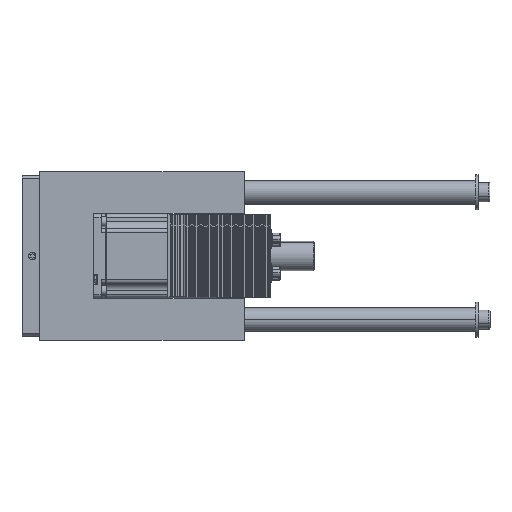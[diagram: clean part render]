
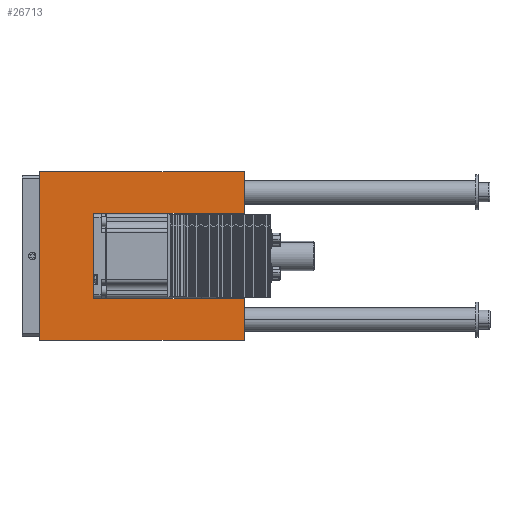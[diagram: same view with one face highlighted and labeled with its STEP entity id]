
A CAD part, top view. The second image highlights one B-rep face of the part: STEP entity #26713.
In plain terms, the highlighted planar face has unit normal (0, 0, 1).
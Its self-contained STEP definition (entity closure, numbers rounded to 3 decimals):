
#1046 = EDGE_CURVE ( 'NONE', #37613, #75086, #62044, .T. ) ;
#1833 = DIRECTION ( 'NONE',  ( 0., 1., 0. ) ) ;
#2249 = VECTOR ( 'NONE', #62707, 1000. ) ;
#2434 = CARTESIAN_POINT ( 'NONE',  ( 70., -29.25, 29. ) ) ;
#3877 = CARTESIAN_POINT ( 'NONE',  ( -33., 29.25, 29. ) ) ;
#6197 = LINE ( 'NONE', #66882, #19278 ) ;
#8767 = VERTEX_POINT ( 'NONE', #23526 ) ;
#9449 = DIRECTION ( 'NONE',  ( 0., 0., 1. ) ) ;
#9875 = VERTEX_POINT ( 'NONE', #18253 ) ;
#14488 = DIRECTION ( 'NONE',  ( -1., 0., 0. ) ) ;
#14720 = DIRECTION ( 'NONE',  ( 1., 0., 0. ) ) ;
#15173 = ORIENTED_EDGE ( 'NONE', *, *, #1046, .T. ) ;
#15754 = CARTESIAN_POINT ( 'NONE',  ( 70., 57.5, 29. ) ) ;
#18253 = CARTESIAN_POINT ( 'NONE',  ( 70., 29.25, 29. ) ) ;
#18449 = VECTOR ( 'NONE', #1833, 1000. ) ;
#19278 = VECTOR ( 'NONE', #52727, 1000. ) ;
#19537 = EDGE_CURVE ( 'NONE', #9875, #65474, #6197, .T. ) ;
#21985 = EDGE_CURVE ( 'NONE', #69166, #8767, #66503, .T. ) ;
#22185 = VERTEX_POINT ( 'NONE', #39486 ) ;
#22339 = EDGE_CURVE ( 'NONE', #22185, #75086, #28983, .T. ) ;
#22608 = VECTOR ( 'NONE', #22820, 1000. ) ;
#22820 = DIRECTION ( 'NONE',  ( 1., 0., 0. ) ) ;
#23526 = CARTESIAN_POINT ( 'NONE',  ( -70., -57.5, 29. ) ) ;
#24549 = CARTESIAN_POINT ( 'NONE',  ( 70., 29.25, 29. ) ) ;
#25179 = CARTESIAN_POINT ( 'NONE',  ( -70., 57.5, 29. ) ) ;
#25430 = VECTOR ( 'NONE', #52797, 1000. ) ;
#26713 = ADVANCED_FACE ( 'NONE', ( #68802 ), #36227, .T. ) ;
#28775 = LINE ( 'NONE', #35379, #48929 ) ;
#28789 = CARTESIAN_POINT ( 'NONE',  ( -70., 57.5, 29. ) ) ;
#28983 = LINE ( 'NONE', #43394, #22608 ) ;
#29236 = ORIENTED_EDGE ( 'NONE', *, *, #65925, .F. ) ;
#30060 = CARTESIAN_POINT ( 'NONE',  ( 0., 0., 29. ) ) ;
#32898 = EDGE_CURVE ( 'NONE', #65474, #69166, #34276, .T. ) ;
#34135 = VECTOR ( 'NONE', #14488, 1000. ) ;
#34276 = LINE ( 'NONE', #75173, #34135 ) ;
#35237 = ORIENTED_EDGE ( 'NONE', *, *, #21985, .T. ) ;
#35379 = CARTESIAN_POINT ( 'NONE',  ( -70., -57.5, 29. ) ) ;
#36227 = PLANE ( 'NONE',  #56995 ) ;
#37613 = VERTEX_POINT ( 'NONE', #39752 ) ;
#39363 = EDGE_CURVE ( 'NONE', #8767, #37613, #28775, .T. ) ;
#39486 = CARTESIAN_POINT ( 'NONE',  ( -33., -29.25, 29. ) ) ;
#39488 = EDGE_LOOP ( 'NONE', ( #68529, #29236, #55112, #60148, #44559, #35237, #58492, #15173 ) ) ;
#39752 = CARTESIAN_POINT ( 'NONE',  ( 70., -57.5, 29. ) ) ;
#43394 = CARTESIAN_POINT ( 'NONE',  ( 70., -29.25, 29. ) ) ;
#44559 = ORIENTED_EDGE ( 'NONE', *, *, #32898, .T. ) ;
#47115 = VERTEX_POINT ( 'NONE', #3877 ) ;
#48929 = VECTOR ( 'NONE', #14720, 1000. ) ;
#52727 = DIRECTION ( 'NONE',  ( 0., 1., 0. ) ) ;
#52797 = DIRECTION ( 'NONE',  ( 0., -1., 0. ) ) ;
#55112 = ORIENTED_EDGE ( 'NONE', *, *, #85200, .F. ) ;
#55211 = LINE ( 'NONE', #63148, #2249 ) ;
#56995 = AXIS2_PLACEMENT_3D ( 'NONE', #30060, #9449, #75849 ) ;
#58492 = ORIENTED_EDGE ( 'NONE', *, *, #39363, .T. ) ;
#60148 = ORIENTED_EDGE ( 'NONE', *, *, #19537, .T. ) ;
#62044 = LINE ( 'NONE', #76133, #18449 ) ;
#62707 = DIRECTION ( 'NONE',  ( 0., -1., 0. ) ) ;
#63148 = CARTESIAN_POINT ( 'NONE',  ( -33., -29.25, 29. ) ) ;
#65474 = VERTEX_POINT ( 'NONE', #15754 ) ;
#65499 = VECTOR ( 'NONE', #83974, 1000. ) ;
#65925 = EDGE_CURVE ( 'NONE', #47115, #22185, #55211, .T. ) ;
#66503 = LINE ( 'NONE', #25179, #25430 ) ;
#66882 = CARTESIAN_POINT ( 'NONE',  ( 70., 57.5, 29. ) ) ;
#68529 = ORIENTED_EDGE ( 'NONE', *, *, #22339, .F. ) ;
#68802 = FACE_OUTER_BOUND ( 'NONE', #39488, .T. ) ;
#69166 = VERTEX_POINT ( 'NONE', #28789 ) ;
#72487 = LINE ( 'NONE', #24549, #65499 ) ;
#75086 = VERTEX_POINT ( 'NONE', #2434 ) ;
#75173 = CARTESIAN_POINT ( 'NONE',  ( -70., 57.5, 29. ) ) ;
#75849 = DIRECTION ( 'NONE',  ( 1., 0., 0. ) ) ;
#76133 = CARTESIAN_POINT ( 'NONE',  ( 70., 57.5, 29. ) ) ;
#83974 = DIRECTION ( 'NONE',  ( -1., 0., 0. ) ) ;
#85200 = EDGE_CURVE ( 'NONE', #9875, #47115, #72487, .T. ) ;
